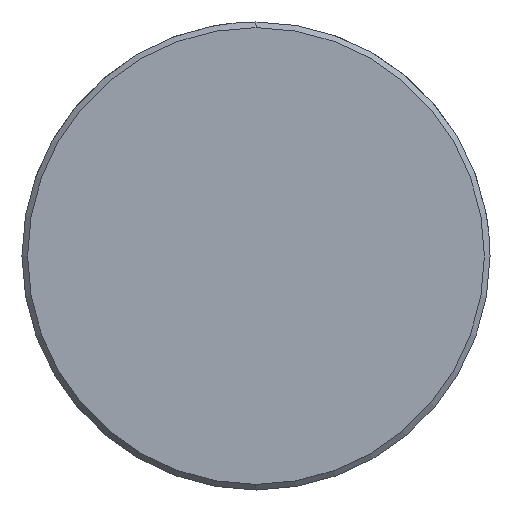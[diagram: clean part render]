
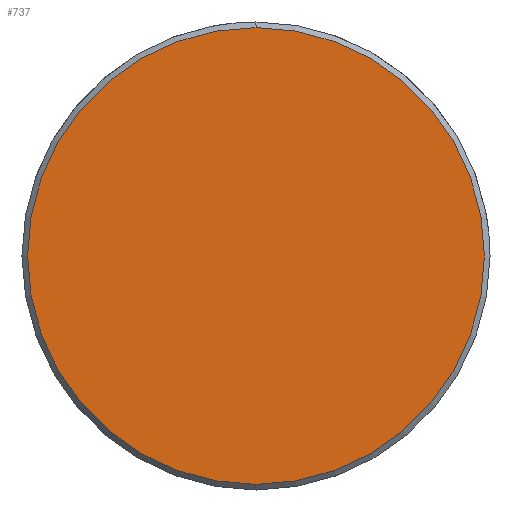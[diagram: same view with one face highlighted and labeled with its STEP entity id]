
A CAD part, left-side view. The second image highlights one B-rep face of the part: STEP entity #737.
In plain terms, the highlighted planar face has unit normal (-1, 0, 0).
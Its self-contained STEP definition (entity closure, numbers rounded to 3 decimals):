
#669=CARTESIAN_POINT('Vertex',(0.,0.,-12.2)) ;
#672=CARTESIAN_POINT('Axis2P3D Location',(0.,0.,0.)) ;
#676=CARTESIAN_POINT('Vertex',(0.,12.2,0.)) ;
#679=CARTESIAN_POINT('Axis2P3D Location',(0.,0.,0.)) ;
#683=CARTESIAN_POINT('Vertex',(0.,0.,12.2)) ;
#705=CARTESIAN_POINT('Axis2P3D Location',(0.,0.,0.)) ;
#709=CARTESIAN_POINT('Vertex',(0.,-12.2,0.)) ;
#712=CARTESIAN_POINT('Axis2P3D Location',(0.,0.,0.)) ;
#726=CARTESIAN_POINT('Axis2P3D Location',(0.,0.,0.)) ;
#673=DIRECTION('Axis2P3D Direction',(1.,0.,-0.)) ;
#680=DIRECTION('Axis2P3D Direction',(1.,0.,-0.)) ;
#706=DIRECTION('Axis2P3D Direction',(1.,0.,-0.)) ;
#713=DIRECTION('Axis2P3D Direction',(1.,0.,-0.)) ;
#727=DIRECTION('Axis2P3D Direction',(1.,0.,-0.)) ;
#728=DIRECTION('Axis2P3D XDirection',(-0.,0.,-1.)) ;
#674=AXIS2_PLACEMENT_3D('Circle Axis2P3D',#672,#673,$) ;
#681=AXIS2_PLACEMENT_3D('Circle Axis2P3D',#679,#680,$) ;
#707=AXIS2_PLACEMENT_3D('Circle Axis2P3D',#705,#706,$) ;
#714=AXIS2_PLACEMENT_3D('Circle Axis2P3D',#712,#713,$) ;
#729=AXIS2_PLACEMENT_3D('Plane Axis2P3D',#726,#727,#728) ;
#732=ORIENTED_EDGE('',*,*,#678,.F.) ;
#733=ORIENTED_EDGE('',*,*,#716,.F.) ;
#734=ORIENTED_EDGE('',*,*,#711,.F.) ;
#735=ORIENTED_EDGE('',*,*,#685,.F.) ;
#737=ADVANCED_FACE('549-22X220',(#736),#730,.F.) ;
#675=CIRCLE('generated circle',#674,12.2) ;
#682=CIRCLE('generated circle',#681,12.2) ;
#708=CIRCLE('generated circle',#707,12.2) ;
#715=CIRCLE('generated circle',#714,12.2) ;
#678=EDGE_CURVE('',#670,#677,#675,.T.) ;
#685=EDGE_CURVE('',#677,#684,#682,.T.) ;
#711=EDGE_CURVE('',#684,#710,#708,.T.) ;
#716=EDGE_CURVE('',#710,#670,#715,.T.) ;
#731=EDGE_LOOP('',(#732,#733,#734,#735)) ;
#736=FACE_OUTER_BOUND('',#731,.T.) ;
#730=PLANE('Plane',#729) ;
#670=VERTEX_POINT('',#669) ;
#677=VERTEX_POINT('',#676) ;
#684=VERTEX_POINT('',#683) ;
#710=VERTEX_POINT('',#709) ;
